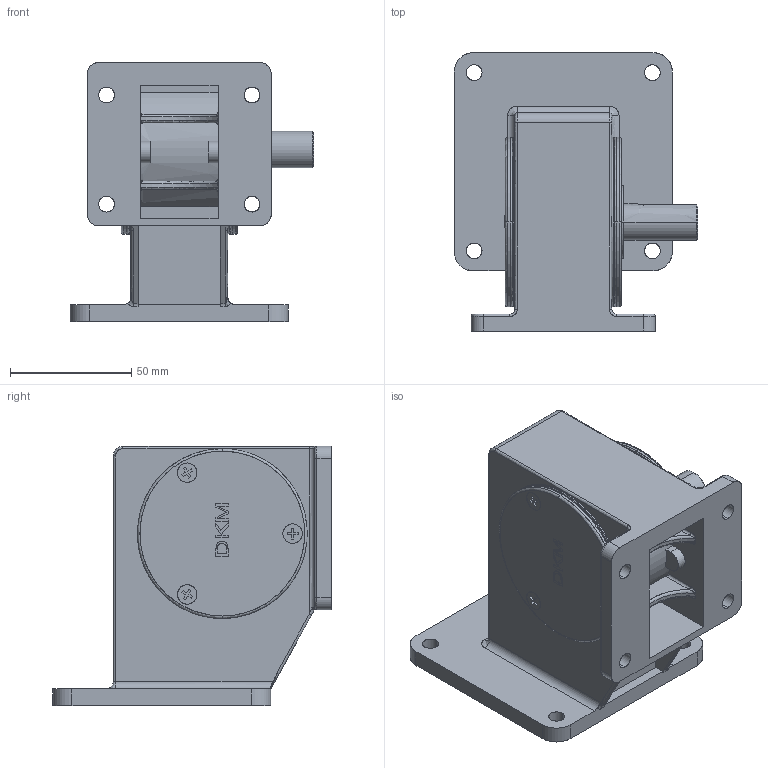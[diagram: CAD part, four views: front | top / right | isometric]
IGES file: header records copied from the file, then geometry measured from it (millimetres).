
Start section: SolidWorks IGES file using analytic representation for surfaces
Global section: file name: C:\Documents and Settings\user\官帕 拳搁\2015 墨呕肺弊 档搁荐沥\权其捞瘤 档搁\12. GEARBOX\(12-18) 9WD∴BL.IGS; native system: SolidWorks 2007; preprocessor: SolidWorks 2007; author: user; date: 150410.142252; units: millimetre
Bounding box: 100.5 x 115 x 107 mm (x, y, z)
Surface area: 67713.7 mm2 (no closed solid volume)
Topology: 0 solids, 0 shells, 347 faces, 4162 edges, 4160 vertices
Faces by surface type: bspline 238, revolution 109
